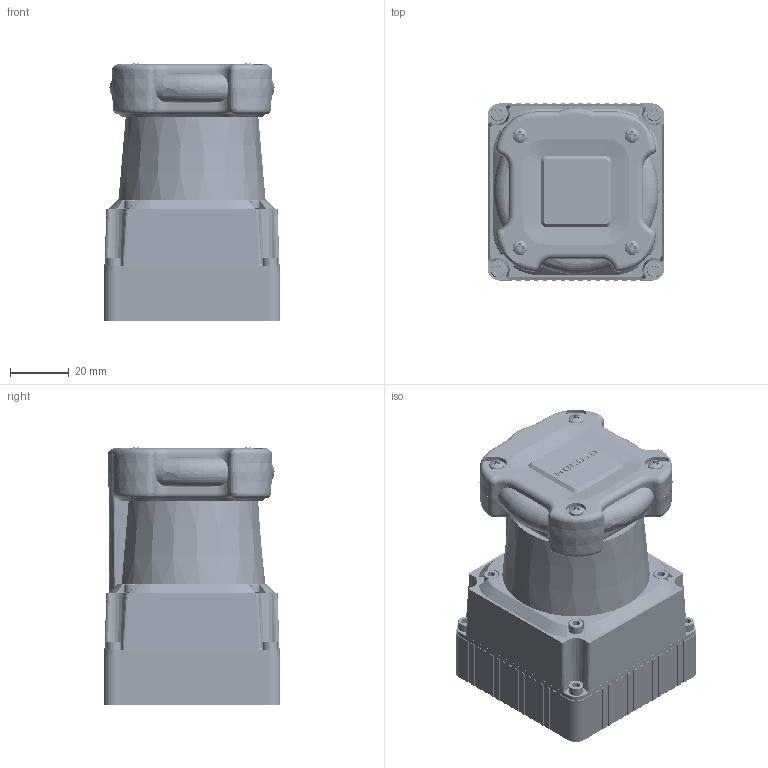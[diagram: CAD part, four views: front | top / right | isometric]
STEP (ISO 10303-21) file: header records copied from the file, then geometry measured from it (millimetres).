
FILE_DESCRIPTION(/* description */ (''),/* implementation_level */ '2;1');
FILE_NAME(/* name */ 'C:/Users/arubin/Documents/WanderingGlider/models/Hokuyo UTM-30LX v12.step',/* time_stamp */ '2016-12-08T12:43:50-05:00',/* author */ (''),/* organization */ (''),/* preprocessor_version */ 'ST-DEVELOPER v16.5',/* originating_system */ 'Autodesk Translation Framework v5.2.0.2920',/* authorisation */ '');
FILE_SCHEMA (('AUTOMOTIVE_DESIGN { 1 0 10303 214 3 1 1 }'));
Length unit declared in the file: millimetre
Products named in the file (19): Hokuyo UTM-30LX v12; base; upper_base; lense; lower_top; upper_top; 91290A115; cable_gland; 92005A071; spinner; receiving_lense; emitter_mirror; pcstepper v8; casing; board; bearing; rotor; stator_plate; stator_coil
Assembly tree (32 placements, depth 3):
  Hokuyo UTM-30LX v12
    base
    upper_base
    lense
    lower_top
    upper_top
    91290A115  x8
    cable_gland  x2
    92005A071  x4
    spinner
    receiving_lense
    emitter_mirror
    pcstepper v8
      casing
      board
      bearing  x2
      rotor
      stator_plate  x2
      stator_coil  x2
Bounding box: 60 x 60 x 87.43 mm (x, y, z)
Volume: 75054.5 mm3; surface area: 100927.5 mm2
Topology: 40 solids, 40 shells, 1988 faces, 5227 edges, 3382 vertices
Faces by surface type: plane 1195, cylinder 389, cone 216, bspline 93, torus 71, sphere 24
Full cylindrical faces by diameter (mm): 2 x4, 2.5 x8, 2.529 x4, 2.75 x4, 3 x158, 5 x18, 6 x11, 8 x4, 10 x6, 12 x6, 20 x1, 25 x1, 27 x2, 29 x2, 29.2 x2, 33 x1, 36 x1, 36.819 x2, 37 x1, 40 x1, 47 x6, 48 x1, 49 x2, 50 x1
Entity records: 50660 total; most frequent: CARTESIAN_POINT 16802, ORIENTED_EDGE 6938, DIRECTION 6919, EDGE_CURVE 3465, AXIS2_PLACEMENT_3D 2318, VERTEX_POINT 2289, LINE 2283, VECTOR 2283
